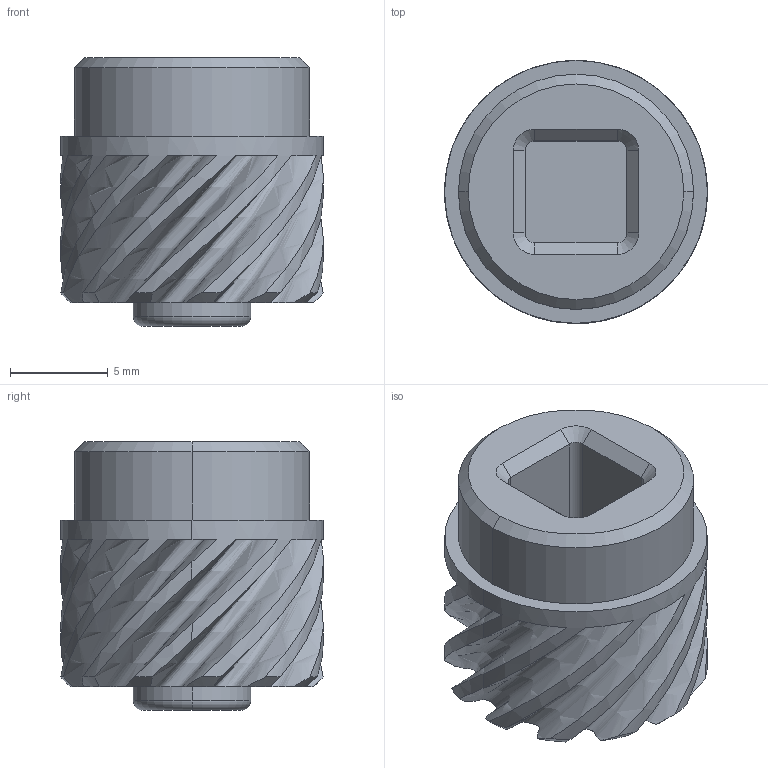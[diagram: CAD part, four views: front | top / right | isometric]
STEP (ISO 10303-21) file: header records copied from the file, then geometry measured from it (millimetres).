
FILE_DESCRIPTION (( 'STEP AP214' ), '1' );
FILE_NAME ('Öåíòðàëüíûé ÄèôÒ - Öåíòðàëüíûé ñàòåëèò.STEP', '2019-03-23T07:32:25', ( '' ), ( '' ), 'SwSTEP 2.0', 'SolidWorks 2018', '' );
FILE_SCHEMA (( 'AUTOMOTIVE_DESIGN' ));
Length unit declared in the file: millimetre
Products named in the file (1): Öåíòðàëüíûé ÄèôÒ - Öåíòðàëüíûé ñàòåëèò
Bounding box: 13.41 x 13.41 x 13.7 mm (x, y, z)
Volume: 1140.7 mm3; surface area: 1276.1 mm2
Topology: 1 solids, 1 shells, 72 faces, 189 edges, 122 vertices
Faces by surface type: plane 25, cone 19, cylinder 14, bspline 12, torus 2
Entity records: 119815 total; most frequent: CARTESIAN_POINT 118195, ORIENTED_EDGE 378, DIRECTION 297, EDGE_CURVE 189, AXIS2_PLACEMENT_3D 128, VERTEX_POINT 122, EDGE_LOOP 75, FACE_OUTER_BOUND 72
